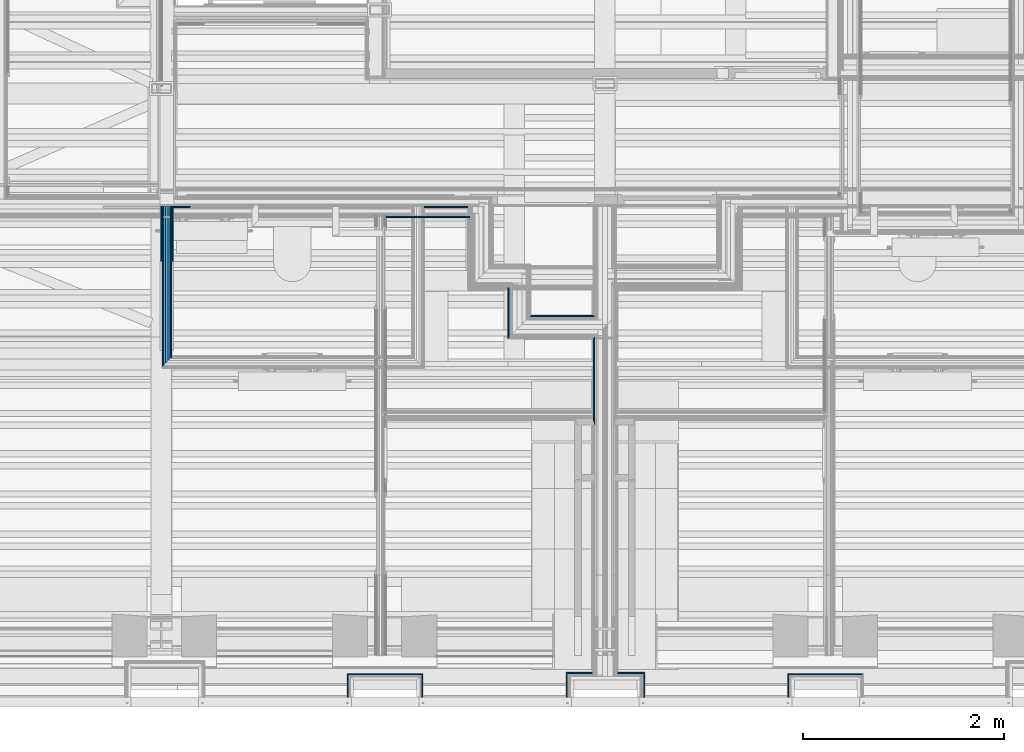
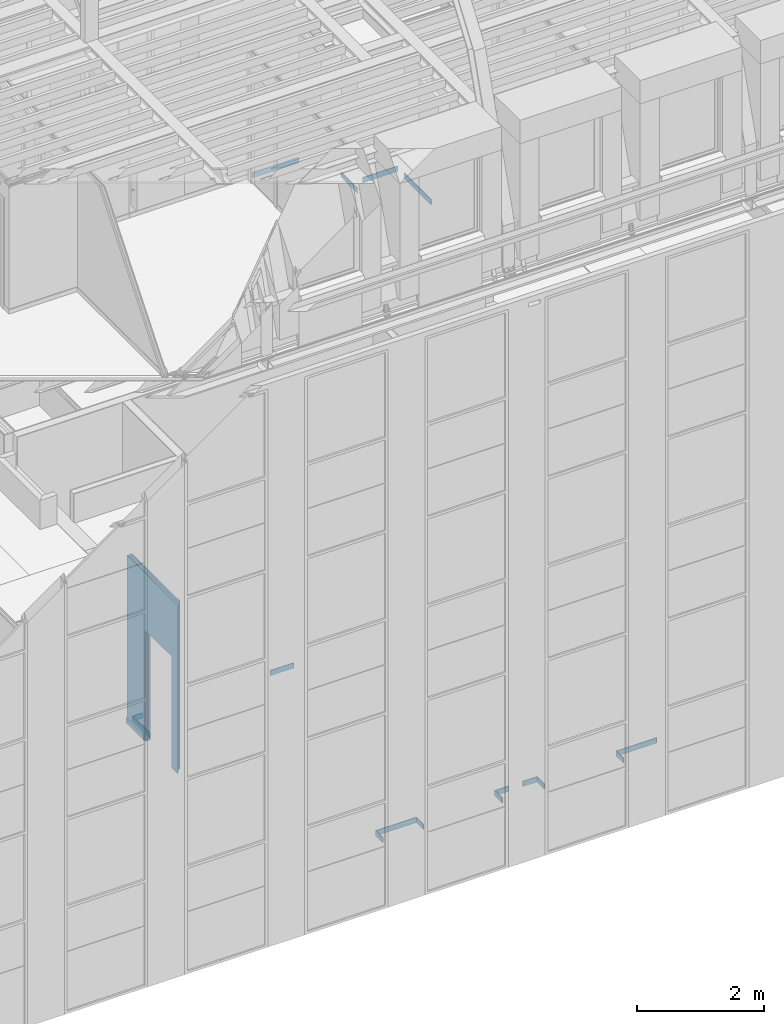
# One storey, part 66 of 183: 22 building element parts, 2 openings, 14 elements without a shape of their own.
"""IFC2X3 building model written with IfcOpenShell, lengths in metres."""

from ifc_helpers import new_model, entity, si_unit, converted_unit, derived_unit, money_unit, direction, frame, frame_2d, origin_with_axes, place, context, subcontext, project, spatial, polyline, rectangle, outline, extrude, material, type_object, element, aggregate, save


model = new_model("IFC2X3")

# Units and contexts
model_context = context("Model", 3, precision=1e-05, world=origin_with_axes(), true_north=direction((0.0, 1.0)))
body_context = subcontext(model_context, "Body", "Model", "MODEL_VIEW", scale=1.0)
ifc_project = project(units=[si_unit("LENGTHUNIT", "METRE"), si_unit("AREAUNIT", "SQUARE_METRE"), si_unit("VOLUMEUNIT", "CUBIC_METRE"), si_unit("ABSORBEDDOSEUNIT", "GRAY"), si_unit("AMOUNTOFSUBSTANCEUNIT", "MOLE"), si_unit("DOSEEQUIVALENTUNIT", "SIEVERT"), si_unit("ELECTRICCAPACITANCEUNIT", "FARAD"), si_unit("ELECTRICCHARGEUNIT", "COULOMB"), si_unit("ELECTRICCONDUCTANCEUNIT", "SIEMENS"), si_unit("ELECTRICCURRENTUNIT", "AMPERE"), si_unit("ELECTRICRESISTANCEUNIT", "OHM"), si_unit("ELECTRICVOLTAGEUNIT", "VOLT"), si_unit("ENERGYUNIT", "JOULE"), si_unit("FORCEUNIT", "NEWTON"), si_unit("FREQUENCYUNIT", "HERTZ"), si_unit("ILLUMINANCEUNIT", "LUX"), si_unit("INDUCTANCEUNIT", "HENRY"), si_unit("LUMINOUSFLUXUNIT", "LUMEN"), si_unit("LUMINOUSINTENSITYUNIT", "CANDELA"), si_unit("MAGNETICFLUXDENSITYUNIT", "TESLA"), si_unit("MAGNETICFLUXUNIT", "WEBER"), si_unit("MASSUNIT", "GRAM"), converted_unit("PLANEANGLEUNIT", "degree", entity("IfcReal", 0.0174532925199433), si_unit("PLANEANGLEUNIT", "RADIAN"), dimensions=[0, 0, 0, 0, 0, 0, 0]), si_unit("POWERUNIT", "WATT"), si_unit("PRESSUREUNIT", "PASCAL"), si_unit("RADIOACTIVITYUNIT", "BECQUEREL"), si_unit("SOLIDANGLEUNIT", "STERADIAN"), si_unit("THERMODYNAMICTEMPERATUREUNIT", "KELVIN"), si_unit("TIMEUNIT", "SECOND"), derived_unit("ACCELERATIONUNIT", [(si_unit("LENGTHUNIT", "METRE"), 1), (si_unit("TIMEUNIT", "SECOND"), -2)]), derived_unit("ANGULARVELOCITYUNIT", [(converted_unit("PLANEANGLEUNIT", "degree", entity("IfcReal", 0.0174532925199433), si_unit("PLANEANGLEUNIT", "RADIAN"), dimensions=[0, 0, 0, 0, 0, 0, 0]), 1), (si_unit("TIMEUNIT", "SECOND"), -1)]), derived_unit("CURVATUREUNIT", [(converted_unit("PLANEANGLEUNIT", "degree", entity("IfcReal", 0.0174532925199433), si_unit("PLANEANGLEUNIT", "RADIAN"), dimensions=[0, 0, 0, 0, 0, 0, 0]), 1), (si_unit("LENGTHUNIT", "METRE"), -1)]), derived_unit("DYNAMICVISCOSITYUNIT", [(si_unit("PRESSUREUNIT", "PASCAL"), 1), (si_unit("TIMEUNIT", "SECOND"), 1)]), derived_unit("HEATFLUXDENSITYUNIT", [(si_unit("POWERUNIT", "WATT"), 1), (si_unit("LENGTHUNIT", "METRE"), -2)]), derived_unit("HEATINGVALUEUNIT", [(si_unit("ENERGYUNIT", "JOULE"), 1), (si_unit("MASSUNIT", "GRAM"), -1)]), derived_unit("INTEGERCOUNTRATEUNIT", [(si_unit("TIMEUNIT", "SECOND"), -1)]), derived_unit("IONCONCENTRATIONUNIT", [(si_unit("MASSUNIT", "GRAM"), 1), (si_unit("VOLUMEUNIT", "CUBIC_METRE"), -1)]), derived_unit("ISOTHERMALMOISTURECAPACITYUNIT", [(si_unit("VOLUMEUNIT", "CUBIC_METRE"), 1), (si_unit("MASSUNIT", "GRAM"), -1)]), derived_unit("KINEMATICVISCOSITYUNIT", [(si_unit("AREAUNIT", "SQUARE_METRE"), 1), (si_unit("TIMEUNIT", "SECOND"), -1)]), derived_unit("LINEARFORCEUNIT", [(si_unit("FORCEUNIT", "NEWTON"), 1), (si_unit("LENGTHUNIT", "METRE"), -1)]), derived_unit("LINEARMOMENTUNIT", [(si_unit("FORCEUNIT", "NEWTON"), 1), (si_unit("LENGTHUNIT", "METRE"), -1)]), derived_unit("LINEARSTIFFNESSUNIT", [(si_unit("FORCEUNIT", "NEWTON"), 1), (si_unit("LENGTHUNIT", "METRE"), -1)]), derived_unit("LINEARVELOCITYUNIT", [(si_unit("LENGTHUNIT", "METRE"), 1), (si_unit("TIMEUNIT", "SECOND"), -1)]), derived_unit("LUMINOUSINTENSITYDISTRIBUTIONUNIT", [(si_unit("LUMINOUSINTENSITYUNIT", "CANDELA"), 1), (si_unit("LUMINOUSFLUXUNIT", "LUMEN"), -1)]), derived_unit("MASSDENSITYUNIT", [(si_unit("MASSUNIT", "GRAM"), 1), (si_unit("VOLUMEUNIT", "CUBIC_METRE"), -1)]), derived_unit("MASSFLOWRATEUNIT", [(si_unit("MASSUNIT", "GRAM"), 1), (si_unit("TIMEUNIT", "SECOND"), -1)]), derived_unit("MASSPERLENGTHUNIT", [(si_unit("MASSUNIT", "GRAM"), 1), (si_unit("LENGTHUNIT", "METRE"), -1)]), derived_unit("MODULUSOFELASTICITYUNIT", [(si_unit("FORCEUNIT", "NEWTON"), 1), (si_unit("AREAUNIT", "SQUARE_METRE"), -1)]), derived_unit("MODULUSOFLINEARSUBGRADEREACTIONUNIT", [(si_unit("FORCEUNIT", "NEWTON"), 1), (si_unit("LENGTHUNIT", "METRE"), -2)]), derived_unit("MODULUSOFROTATIONALSUBGRADEREACTIONUNIT", [(si_unit("FORCEUNIT", "NEWTON"), 1), (si_unit("LENGTHUNIT", "METRE"), 1)]), derived_unit("MODULUSOFSUBGRADEREACTIONUNIT", [(si_unit("FORCEUNIT", "NEWTON"), 1), (si_unit("VOLUMEUNIT", "CUBIC_METRE"), -1)]), derived_unit("MOISTUREDIFFUSIVITYUNIT", [(si_unit("VOLUMEUNIT", "CUBIC_METRE"), 1), (si_unit("TIMEUNIT", "SECOND"), -1)]), derived_unit("MOLECULARWEIGHTUNIT", [(si_unit("MASSUNIT", "GRAM"), 1), (si_unit("AMOUNTOFSUBSTANCEUNIT", "MOLE"), -1)]), derived_unit("PLANARFORCEUNIT", [(si_unit("FORCEUNIT", "NEWTON"), 1), (si_unit("LENGTHUNIT", "METRE"), -2)]), derived_unit("ROTATIONALFREQUENCYUNIT", [(si_unit("TIMEUNIT", "SECOND"), -1)]), derived_unit("ROTATIONALMASSUNIT", [(si_unit("MASSUNIT", "GRAM"), 1), (si_unit("LENGTHUNIT", "METRE"), 2)]), derived_unit("ROTATIONALSTIFFNESSUNIT", [(si_unit("FORCEUNIT", "NEWTON"), 1), (si_unit("LENGTHUNIT", "METRE"), 1), (converted_unit("PLANEANGLEUNIT", "degree", entity("IfcReal", 0.0174532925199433), si_unit("PLANEANGLEUNIT", "RADIAN"), dimensions=[0, 0, 0, 0, 0, 0, 0]), -1)]), derived_unit("SECTIONAREAINTEGRALUNIT", [(si_unit("LENGTHUNIT", "METRE"), 5)]), derived_unit("SECTIONMODULUSUNIT", [(si_unit("LENGTHUNIT", "METRE"), 3)]), derived_unit("SHEARMODULUSUNIT", [(si_unit("FORCEUNIT", "NEWTON"), 1), (si_unit("AREAUNIT", "SQUARE_METRE"), -1)]), derived_unit("SOUNDPOWERUNIT", [(si_unit("ENERGYUNIT", "JOULE"), 1), (si_unit("TIMEUNIT", "SECOND"), -1)]), derived_unit("SPECIFICHEATCAPACITYUNIT", [(si_unit("FORCEUNIT", "NEWTON"), 1), (si_unit("MASSUNIT", "GRAM"), -1), (si_unit("THERMODYNAMICTEMPERATUREUNIT", "KELVIN"), -1)]), derived_unit("TEMPERATUREGRADIENTUNIT", [(si_unit("THERMODYNAMICTEMPERATUREUNIT", "KELVIN"), 1), (si_unit("LENGTHUNIT", "METRE"), -1)]), derived_unit("THERMALADMITTANCEUNIT", [(si_unit("POWERUNIT", "WATT"), 1), (si_unit("AREAUNIT", "SQUARE_METRE"), -1), (si_unit("THERMODYNAMICTEMPERATUREUNIT", "KELVIN"), -1)]), derived_unit("THERMALCONDUCTANCEUNIT", [(si_unit("POWERUNIT", "WATT"), 1), (si_unit("LENGTHUNIT", "METRE"), -1), (si_unit("THERMODYNAMICTEMPERATUREUNIT", "KELVIN"), -1)]), derived_unit("THERMALEXPANSIONCOEFFICIENTUNIT", [(si_unit("THERMODYNAMICTEMPERATUREUNIT", "KELVIN"), -1)]), derived_unit("THERMALRESISTANCEUNIT", [(si_unit("AREAUNIT", "SQUARE_METRE"), 1), (si_unit("POWERUNIT", "WATT"), -1)]), derived_unit("THERMALTRANSMITTANCEUNIT", [(si_unit("POWERUNIT", "WATT"), 1), (si_unit("AREAUNIT", "SQUARE_METRE"), -1), (si_unit("THERMODYNAMICTEMPERATUREUNIT", "KELVIN"), -1)]), derived_unit("TORQUEUNIT", [(si_unit("FORCEUNIT", "NEWTON"), 1), (si_unit("LENGTHUNIT", "METRE"), 1)]), derived_unit("VAPORPERMEABILITYUNIT", [(si_unit("MASSUNIT", "GRAM"), 1), (si_unit("TIMEUNIT", "SECOND"), -1)]), derived_unit("VOLUMETRICFLOWRATEUNIT", [(si_unit("VOLUMEUNIT", "CUBIC_METRE"), 1), (si_unit("TIMEUNIT", "SECOND"), -1)]), derived_unit("WARPINGCONSTANTUNIT", [(si_unit("LENGTHUNIT", "METRE"), 6)]), derived_unit("WARPINGMOMENTUNIT", [(si_unit("FORCEUNIT", "NEWTON"), 1), (si_unit("LENGTHUNIT", "METRE"), 2)]), money_unit("GBP")], contexts=[model_context])

# Site, building, storey
site_placement = place(None, origin_with_axes())
site = spatial("IfcSite", under=ifc_project, at=site_placement, Name="Site", CompositionType="ELEMENT")
building_placement = place(site_placement, origin_with_axes())
building = spatial("IfcBuilding", under=site, at=building_placement, Name="Building01", CompositionType="ELEMENT")
storey_placement = place(building_placement, frame((0.0, 0.0, 5.15), z_axis=(0.0, 0.0, 1.0), x_axis=(1.0, 0.0, 0.0)))
storey = spatial("IfcBuildingStorey", under=building, at=storey_placement, Name="1F", CompositionType="ELEMENT", Elevation=5.15)

# Wall, building element part
wall_type_1 = type_object("IfcWallType", Name="SHE_A-Walls_Type06d_ExternalWallInsulation_48mm", PredefinedType="NOTDEFINED")
wall_1_placement = place(storey_placement, frame((11.003, 0.1, 0.0), z_axis=(0.0, 0.0, 1.0), x_axis=(0.0, 1.0, 0.0)))
wall_1 = element("IfcWall", 1, at=wall_1_placement, inside=storey, type_object=wall_type_1, Name="6D", ObjectType="SHE_A-Walls_Type06d_ExternalWallInsulation_48mm")
ifc_material_1 = material(Name="A_BSUK_Walls_Timber")
building_element_part_1_placement = place(wall_1_placement, origin_with_axes())
building_element_part_1 = element("IfcBuildingElementPart", 2, at=building_element_part_1_placement, material=ifc_material_1, Name="3", context=body_context, shape_type="SweptSolid", body=[
    extrude(outline(polyline([(0.233, 0.063), (0.0, 0.063), (0.0, 0.048), (0.218, 0.048), (0.233, 0.063)])), frame((0.0, 0.0, 0.015), z_axis=(0.0, 0.0, 1.0), x_axis=(1.0, 0.0, 0.0)), (0.0, 0.0, 1.0), 0.1),
])
aggregate(wall_1, [building_element_part_1])

wall_2_placement = place(storey_placement, frame((11.003, 0.27, 0.0), z_axis=(0.0, 0.0, 1.0), x_axis=(1.0, 0.0, 0.0)))
wall_2 = element("IfcWall", 3, at=wall_2_placement, inside=storey, type_object=wall_type_1, Name="6D", ObjectType="SHE_A-Walls_Type06d_ExternalWallInsulation_48mm")
building_element_part_2_placement = place(wall_2_placement, origin_with_axes())
building_element_part_2 = element("IfcBuildingElementPart", 4, at=building_element_part_2_placement, material=ifc_material_1, Name="3", context=body_context, shape_type="SweptSolid", body=[
    extrude(outline(polyline([(0.687, 0.063), (-0.063, 0.063), (-0.048, 0.048), (0.672, 0.048), (0.687, 0.063)])), frame((0.0, 0.0, 0.015), z_axis=(0.0, 0.0, 1.0), x_axis=(1.0, 0.0, 0.0)), (0.0, 0.0, 1.0), 0.1),
])
aggregate(wall_2, [building_element_part_2])

wall_3_placement = place(storey_placement, frame((11.627, 0.27, 0.0), z_axis=(0.0, 0.0, 1.0), x_axis=(0.0, -1.0, 0.0)))
wall_3 = element("IfcWall", 5, at=wall_3_placement, inside=storey, type_object=wall_type_1, Name="6D", ObjectType="SHE_A-Walls_Type06d_ExternalWallInsulation_48mm")
building_element_part_3_placement = place(wall_3_placement, origin_with_axes())
building_element_part_3 = element("IfcBuildingElementPart", 6, at=building_element_part_3_placement, material=ifc_material_1, Name="3", context=body_context, shape_type="SweptSolid", body=[
    extrude(outline(polyline([(-0.063, 0.063), (-0.048, 0.048), (0.17, 0.048), (0.17, 0.063), (-0.063, 0.063)])), frame((0.0, 0.0, 0.015), z_axis=(0.0, 0.0, 1.0), x_axis=(1.0, 0.0, 0.0)), (0.0, 0.0, 1.0), 0.1),
])
aggregate(wall_3, [building_element_part_3])

wall_4_placement = place(storey_placement, frame((15.383, 0.1, 0.0), z_axis=(0.0, 0.0, 1.0), x_axis=(0.0, 1.0, 0.0)))
wall_4 = element("IfcWall", 7, at=wall_4_placement, inside=storey, type_object=wall_type_1, Name="6D", ObjectType="SHE_A-Walls_Type06d_ExternalWallInsulation_48mm")
building_element_part_4_placement = place(wall_4_placement, origin_with_axes())
building_element_part_4 = element("IfcBuildingElementPart", 8, at=building_element_part_4_placement, material=ifc_material_1, Name="3", context=body_context, shape_type="SweptSolid", body=[
    extrude(outline(polyline([(0.233, 0.063), (0.0, 0.063), (0.0, 0.048), (0.218, 0.048), (0.233, 0.063)])), frame((0.0, 0.0, 0.015), z_axis=(0.0, 0.0, 1.0), x_axis=(1.0, 0.0, 0.0)), (0.0, 0.0, 1.0), 0.1),
])
aggregate(wall_4, [building_element_part_4])

wall_5_placement = place(storey_placement, frame((15.383, 0.27, 0.0), z_axis=(0.0, 0.0, 1.0), x_axis=(1.0, 0.0, 0.0)))
wall_5 = element("IfcWall", 9, at=wall_5_placement, inside=storey, type_object=wall_type_1, Name="6D", ObjectType="SHE_A-Walls_Type06d_ExternalWallInsulation_48mm")
building_element_part_5_placement = place(wall_5_placement, origin_with_axes())
building_element_part_5 = element("IfcBuildingElementPart", 10, at=building_element_part_5_placement, material=ifc_material_1, Name="3", context=body_context, shape_type="SweptSolid", body=[
    extrude(outline(polyline([(0.687, 0.063), (-0.063, 0.063), (-0.048, 0.048), (0.672, 0.048), (0.687, 0.063)])), frame((0.0, 0.0, 0.015), z_axis=(0.0, 0.0, 1.0), x_axis=(1.0, 0.0, 0.0)), (0.0, 0.0, 1.0), 0.1),
])
aggregate(wall_5, [building_element_part_5])

# Wall, openings, building element parts
wall_type_2 = type_object("IfcWallType", Name="SHE_A-Walls_Type05a_Partition_95mm_tall", PredefinedType="NOTDEFINED")
wall_6_placement = place(storey_placement, frame((9.132536, 4.98, 0.0), z_axis=(0.0, 0.0, 1.0), x_axis=(0.0, -1.0, 0.0)))
wall_6 = element("IfcWall", 11, at=wall_6_placement, inside=storey, type_object=wall_type_2, Name="5A", ObjectType="SHE_A-Walls_Type05a_Partition_95mm_tall")
opening_1_placement = place(wall_6_placement, frame((0.574219, -0.035, -0.015), z_axis=(0.0, 0.0, 1.0), x_axis=(1.0, 0.0, 0.0)))
element("IfcOpeningElement", 12, at=opening_1_placement, cuts=wall_6, Name="Opening", ObjectType="Recess", context=body_context, shape_type="SweptSolid", body=[
    extrude(rectangle(XDim=0.834, YDim=2.142, at=frame_2d((-0.417, 1.071), x_axis=(1.0, 0.0))), frame((0.0, 0.0, 0.0), z_axis=(0.0, 1.0, 0.0), x_axis=(-1.0, 0.0, 0.0)), (0.0, 0.0, 1.0), 0.095),
])
opening_2_placement = place(wall_6_placement, frame((0.574219, -0.035, 0.0), z_axis=(0.0, 0.0, 1.0), x_axis=(1.0, 0.0, 0.0)))
element("IfcOpeningElement", 13, at=opening_2_placement, cuts=wall_6, Name="Opening", ObjectType="Recess", context=body_context, shape_type="SweptSolid", body=[
    extrude(rectangle(XDim=0.834, YDim=2.142, at=frame_2d((-0.417, 1.071), x_axis=(-1.0, 0.0))), frame((0.0, 0.0, 0.0), z_axis=(0.0, 1.0, 0.0), x_axis=(-1.0, 0.0, 0.0)), (0.0, 0.0, 1.0), 0.095),
    extrude(rectangle(XDim=1.034, YDim=2.142, at=frame_2d((-0.517, 1.071), x_axis=(-1.0, 0.0))), frame((0.0, 0.035, 0.0), z_axis=(0.0, 1.0, 0.0), x_axis=(-1.0, 0.0, 0.0)), (0.0, 0.0, 1.0), 0.025),
    extrude(rectangle(XDim=1.034, YDim=2.142, at=frame_2d((-0.517, 1.071), x_axis=(-1.0, 0.0))), frame((0.0, 0.06, 0.0), z_axis=(0.0, 1.0, 0.0), x_axis=(-1.0, 0.0, 0.0)), (0.0, 0.0, 1.0), 0.023),
])
placement_1 = place(wall_6_placement, origin_with_axes())
building_element_part_6 = element("IfcBuildingElementPart", 14, at=placement_1, material=ifc_material_1, Name="1", context=body_context, shape_type="SweptSolid", body=[
    extrude(rectangle(XDim=0.015, YDim=0.547219, at=frame_2d((0.27361, -0.0425), x_axis=(0.0, -1.0))), frame((0.0, 0.0, 0.015), z_axis=(0.0, 0.0, 1.0), x_axis=(1.0, 0.0, 0.0)), (0.0, 0.0, 1.0), 0.1),
])
ifc_material_2 = material(Name="A_BSUK_WallInternal_Finishes_Plasterboard")
building_element_part_7 = element("IfcBuildingElementPart", 15, at=placement_1, material=ifc_material_2, Name="2", context=body_context, shape_type="SweptSolid", body=[
    extrude(outline(polyline([(1.583, -0.023), (0.0, -0.023), (0.0, -0.035), (1.595, -0.035), (1.583, -0.023)])), origin_with_axes(), (0.0, 0.0, 1.0), 3.24),
])
ifc_material_3 = material(Name="Air Cavity")
building_element_part_8 = element("IfcBuildingElementPart", 16, at=placement_1, material=ifc_material_3, Name="3", context=body_context, shape_type="SweptSolid", body=[
    extrude(outline(polyline([(1.56, 0.0), (0.0, 0.0), (0.0, -0.023), (1.583, -0.023), (1.56, 0.0)])), origin_with_axes(), (0.0, 0.0, 1.0), 3.24),
])
ifc_material_4 = material(Name="A_BSUK_Insulation")
building_element_part_9 = element("IfcBuildingElementPart", 17, at=placement_1, material=ifc_material_4, Name="4", context=body_context, shape_type="SweptSolid", body=[
    extrude(outline(polyline([(1.535, 0.025), (0.0, 0.025), (0.0, 0.0), (1.56, 0.0), (1.535, 0.025)])), origin_with_axes(), (0.0, 0.0, 1.0), 3.24),
])
building_element_part_10 = element("IfcBuildingElementPart", 18, at=placement_1, material=ifc_material_3, Name="5", context=body_context, shape_type="SweptSolid", body=[
    extrude(outline(polyline([(1.512, 0.048), (0.0, 0.048), (0.0, 0.025), (1.535, 0.025), (1.512, 0.048)])), origin_with_axes(), (0.0, 0.0, 1.0), 3.24),
])
building_element_part_11 = element("IfcBuildingElementPart", 19, at=placement_1, material=ifc_material_2, Name="6", context=body_context, shape_type="SweptSolid", body=[
    extrude(outline(polyline([(1.5, 0.06), (0.0, 0.06), (0.0, 0.048), (1.512, 0.048), (1.5, 0.06)])), origin_with_axes(), (0.0, 0.0, 1.0), 3.24),
])
building_element_part_12 = element("IfcBuildingElementPart", 20, at=placement_1, material=ifc_material_1, Name="7", context=body_context, shape_type="SweptSolid", body=[
    extrude(rectangle(XDim=0.015, YDim=0.547219, at=frame_2d((0.27361, 0.0675), x_axis=(0.0, -1.0))), frame((0.0, 0.0, 0.015), z_axis=(0.0, 0.0, 1.0), x_axis=(1.0, 0.0, 0.0)), (0.0, 0.0, 1.0), 0.1),
])
aggregate(wall_6, [building_element_part_6, building_element_part_7, building_element_part_8, building_element_part_9, building_element_part_10, building_element_part_11, building_element_part_12])

# Wall, building element parts
wall_type_3 = type_object("IfcWallType", Name="SHE_A-Walls_Type03a_BlockworkWall_170mm", PredefinedType="NOTDEFINED")
wall_7_placement = place(storey_placement, frame((9.06, 4.995, 0.0), z_axis=(0.0, 0.0, 1.0), x_axis=(1.0, 0.0, 0.0)))
wall_7 = element("IfcWall", 21, at=wall_7_placement, inside=storey, type_object=wall_type_3, Name="4B", ObjectType="SHE_A-Walls_Type03a_BlockworkWall_170mm")
placement_2 = place(wall_7_placement, origin_with_axes())
building_element_part_13 = element("IfcBuildingElementPart", 22, at=placement_2, material=ifc_material_1, Name="1", context=body_context, shape_type="SweptSolid", body=[
    extrude(rectangle(XDim=0.169464, YDim=0.015, at=frame_2d((0.232268, -0.0225), x_axis=(-1.0, 0.0))), frame((0.0, 0.0, 0.015), z_axis=(0.0, 0.0, 1.0), x_axis=(1.0, 0.0, 0.0)), (0.0, 0.0, 1.0), 0.1),
])
building_element_part_14 = element("IfcBuildingElementPart", 23, at=placement_2, material=ifc_material_1, Name="6", context=body_context, shape_type="SweptSolid", body=[
    extrude(rectangle(XDim=0.432464, YDim=0.015, at=frame_2d((2.858768, -0.0225), x_axis=(-1.0, 0.0))), frame((0.0, 0.0, 0.015), z_axis=(0.0, 0.0, 1.0), x_axis=(1.0, 0.0, 0.0)), (0.0, 0.0, 1.0), 0.1),
])
aggregate(wall_7, [building_element_part_13, building_element_part_14])

wall_type_4 = type_object("IfcWallType", Name="SHE_A-Walls_Type06f_ExternalWallInsulation_48+15mm", PredefinedType="NOTDEFINED")
wall_8_placement = place(storey_placement, frame((13.157, 0.27, 0.0), z_axis=(0.0, 0.0, 1.0), x_axis=(1.0, 0.0, 0.0)))
wall_8 = element("IfcWall", 24, at=wall_8_placement, inside=storey, type_object=wall_type_4, Name="6F", ObjectType="SHE_A-Walls_Type06f_ExternalWallInsulation_48+15mm")
placement_3 = place(wall_8_placement, origin_with_axes())
building_element_part_15 = element("IfcBuildingElementPart", 25, at=placement_3, material=ifc_material_1, Name="6", context=body_context, shape_type="SweptSolid", body=[
    extrude(outline(polyline([(0.2155, 0.078), (-0.042, 0.078), (-0.027, 0.063), (0.2155, 0.063), (0.2155, 0.078)])), frame((0.0, 0.0, 0.015), z_axis=(0.0, 0.0, 1.0), x_axis=(1.0, 0.0, 0.0)), (0.0, 0.0, 1.0), 0.1),
])
building_element_part_16 = element("IfcBuildingElementPart", 26, at=placement_3, material=ifc_material_1, Name="7", context=body_context, shape_type="SweptSolid", body=[
    extrude(outline(polyline([(0.738, 0.078), (0.4705, 0.078), (0.4705, 0.063), (0.723, 0.063), (0.738, 0.078)])), frame((0.0, 0.0, 0.015), z_axis=(0.0, 0.0, 1.0), x_axis=(1.0, 0.0, 0.0)), (0.0, 0.0, 1.0), 0.1),
])
aggregate(wall_8, [building_element_part_15, building_element_part_16])

# Wall, building element part
wall_9_placement = place(storey_placement, frame((13.817, 0.27, 0.0), z_axis=(0.0, 0.0, 1.0), x_axis=(0.0, -1.0, 0.0)))
wall_9 = element("IfcWall", 27, at=wall_9_placement, inside=storey, type_object=wall_type_4, Name="6F", ObjectType="SHE_A-Walls_Type06f_ExternalWallInsulation_48+15mm")
building_element_part_17_placement = place(wall_9_placement, origin_with_axes())
building_element_part_17 = element("IfcBuildingElementPart", 28, at=building_element_part_17_placement, material=ifc_material_1, Name="4", context=body_context, shape_type="SweptSolid", body=[
    extrude(outline(polyline([(-0.078, 0.078), (-0.063, 0.063), (0.17, 0.063), (0.17, 0.078), (-0.078, 0.078)])), frame((0.0, 0.0, 0.015), z_axis=(0.0, 0.0, 1.0), x_axis=(1.0, 0.0, 0.0)), (0.0, 0.0, 1.0), 0.1),
])
aggregate(wall_9, [building_element_part_17])

wall_10_placement = place(storey_placement, frame((13.193, 0.1, 0.0), z_axis=(0.0, 0.0, 1.0), x_axis=(0.0, 1.0, 0.0)))
wall_10 = element("IfcWall", 29, at=wall_10_placement, inside=storey, type_object=wall_type_4, Name="6F", ObjectType="SHE_A-Walls_Type06f_ExternalWallInsulation_48+15mm")
building_element_part_18_placement = place(wall_10_placement, origin_with_axes())
building_element_part_18 = element("IfcBuildingElementPart", 30, at=building_element_part_18_placement, material=ifc_material_1, Name="4", context=body_context, shape_type="SweptSolid", body=[
    extrude(outline(polyline([(0.248, 0.078), (0.0, 0.078), (0.0, 0.063), (0.233, 0.063), (0.248, 0.078)])), frame((0.0, 0.0, 0.015), z_axis=(0.0, 0.0, 1.0), x_axis=(1.0, 0.0, 0.0)), (0.0, 0.0, 1.0), 0.1),
])
aggregate(wall_10, [building_element_part_18])

wall_type_5 = type_object("IfcWallType", Name="SHE_A-Walls_Type01d_Partywall_200mm_twin", PredefinedType="NOTDEFINED")
wall_11_placement = place(storey_placement, frame((13.475, 3.805, 9.78), z_axis=(0.0, 0.0, 1.0), x_axis=(0.0, -1.0, 0.0)))
wall_11 = element("IfcWall", 31, at=wall_11_placement, inside=storey, type_object=wall_type_5, Name="1D", ObjectType="SHE_A-Walls_Type01d_Partywall_200mm_twin")
building_element_part_19_placement = place(wall_11_placement, origin_with_axes())
building_element_part_19 = element("IfcBuildingElementPart", 32, at=building_element_part_19_placement, material=ifc_material_1, Name="1", context=body_context, shape_type="SweptSolid", body=[
    extrude(outline(polyline([(1.000239, -0.075), (0.125, -0.075), (0.14, -0.09), (0.950239, -0.09), (1.000239, -0.075)])), frame((0.0, 0.0, 0.015), z_axis=(0.0, 0.0, 1.0), x_axis=(1.0, 0.0, 0.0)), (0.0, 0.0, 1.0), 0.1),
])
aggregate(wall_11, [building_element_part_19])

wall_12_placement = place(storey_placement, frame((12.65, 3.78, 9.78), z_axis=(0.0, 0.0, 1.0), x_axis=(1.0, 0.0, 0.0)))
wall_12 = element("IfcWall", 33, at=wall_12_placement, inside=storey, type_object=wall_type_5, Name="1D", ObjectType="SHE_A-Walls_Type01d_Partywall_200mm_twin")
building_element_part_20_placement = place(wall_12_placement, origin_with_axes())
building_element_part_20 = element("IfcBuildingElementPart", 34, at=building_element_part_20_placement, material=ifc_material_1, Name="9", context=body_context, shape_type="SweptSolid", body=[
    extrude(outline(polyline([(0.735, 0.115), (0.115, 0.115), (0.1, 0.1), (0.75, 0.1), (0.735, 0.115)])), frame((0.0, 0.0, 0.015), z_axis=(0.0, 0.0, 1.0), x_axis=(1.0, 0.0, 0.0)), (0.0, 0.0, 1.0), 0.1),
])
aggregate(wall_12, [building_element_part_20])

wall_13_placement = place(storey_placement, frame((12.65, 4.264428, 9.78), z_axis=(0.0, 0.0, 1.0), x_axis=(0.0, -1.0, 0.0)))
wall_13 = element("IfcWall", 35, at=wall_13_placement, inside=storey, type_object=wall_type_5, Name="1D", ObjectType="SHE_A-Walls_Type01d_Partywall_200mm_twin")
building_element_part_21_placement = place(wall_13_placement, origin_with_axes())
building_element_part_21 = element("IfcBuildingElementPart", 36, at=building_element_part_21_placement, material=ifc_material_1, Name="1", context=body_context, shape_type="SweptSolid", body=[
    extrude(outline(polyline([(0.584428, -0.1), (0.09, -0.1), (0.09, -0.115), (0.599428, -0.115), (0.584428, -0.1)])), frame((0.0, 0.0, 0.015), z_axis=(0.0, 0.0, 1.0), x_axis=(1.0, 0.0, 0.0)), (0.0, 0.0, 1.0), 0.1),
])
aggregate(wall_13, [building_element_part_21])

wall_14_placement = place(storey_placement, frame((9.215, 4.955, 9.78), z_axis=(0.0, 0.0, 1.0), x_axis=(1.0, 0.0, 0.0)))
wall_14 = element("IfcWall", 37, at=wall_14_placement, inside=storey, type_object=wall_type_5, Name="1D", ObjectType="SHE_A-Walls_Type01d_Partywall_200mm_twin")
building_element_part_22_placement = place(wall_14_placement, origin_with_axes())
building_element_part_22 = element("IfcBuildingElementPart", 38, at=building_element_part_22_placement, material=ifc_material_1, Name="2", context=body_context, shape_type="SweptSolid", body=[
    extrude(rectangle(XDim=0.835, YDim=0.015, at=frame_2d((2.5275, -0.0825), x_axis=(-1.0, 0.0))), frame((0.0, 0.0, 0.015), z_axis=(0.0, 0.0, 1.0), x_axis=(1.0, 0.0, 0.0)), (0.0, 0.0, 1.0), 0.1),
])
aggregate(wall_14, [building_element_part_22])

save(model, "model.ifc")
